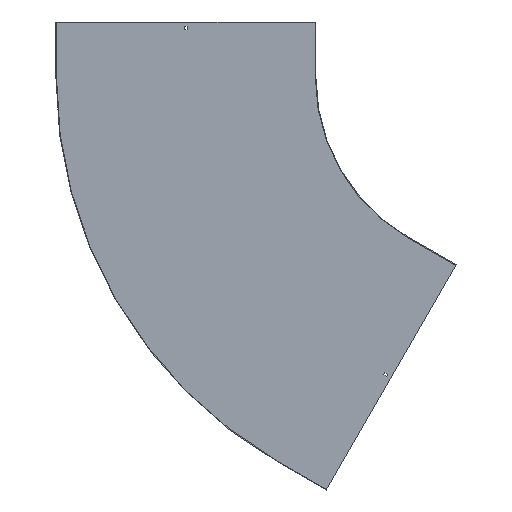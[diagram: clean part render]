
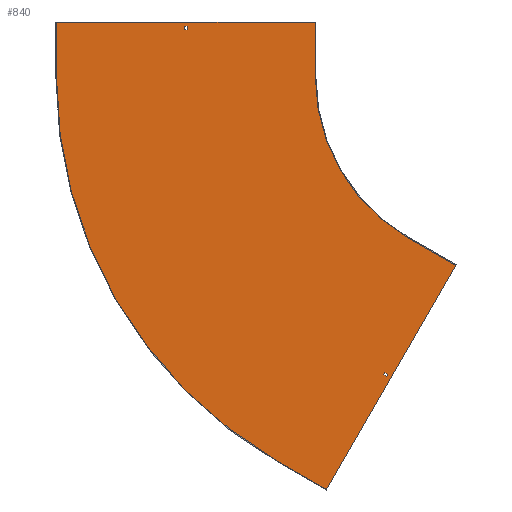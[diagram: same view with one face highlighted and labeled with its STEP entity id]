
A CAD part, front view. The second image highlights one B-rep face of the part: STEP entity #840.
In plain terms, the highlighted planar face has unit normal (0, -1, 0).
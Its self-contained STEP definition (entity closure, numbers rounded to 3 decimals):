
#3 = LINE ( 'NONE', #217, #306 ) ;
#7 = EDGE_CURVE ( 'NONE', #354, #12, #235, .T. ) ;
#10 = DIRECTION ( 'NONE',  ( -0.866, 0., 0.5 ) ) ;
#12 = VERTEX_POINT ( 'NONE', #507 ) ;
#24 = ORIENTED_EDGE ( 'NONE', *, *, #348, .F. ) ;
#27 = EDGE_LOOP ( 'NONE', ( #255, #24, #75, #790 ) ) ;
#32 = VERTEX_POINT ( 'NONE', #436 ) ;
#34 = VERTEX_POINT ( 'NONE', #767 ) ;
#37 = EDGE_CURVE ( 'NONE', #12, #32, #138, .T. ) ;
#51 = DIRECTION ( 'NONE',  ( 0., 0., -1. ) ) ;
#53 = FACE_OUTER_BOUND ( 'NONE', #403, .T. ) ;
#54 = CARTESIAN_POINT ( 'NONE',  ( -250., -1.5, -433.013 ) ) ;
#58 = LINE ( 'NONE', #544, #607 ) ;
#59 = VECTOR ( 'NONE', #10, 1000. ) ;
#64 = EDGE_CURVE ( 'NONE', #300, #316, #58, .T. ) ;
#75 = ORIENTED_EDGE ( 'NONE', *, *, #441, .F. ) ;
#81 = ORIENTED_EDGE ( 'NONE', *, *, #546, .F. ) ;
#83 = EDGE_CURVE ( 'NONE', #725, #551, #332, .T. ) ;
#88 = ORIENTED_EDGE ( 'NONE', *, *, #248, .F. ) ;
#100 = AXIS2_PLACEMENT_3D ( 'NONE', #317, #461, #51 ) ;
#103 = ORIENTED_EDGE ( 'NONE', *, *, #737, .F. ) ;
#104 = CARTESIAN_POINT ( 'NONE',  ( -120.096, -1.5, -508.013 ) ) ;
#118 = VERTEX_POINT ( 'NONE', #413 ) ;
#138 = CIRCLE ( 'NONE', #192, 500. ) ;
#150 = CARTESIAN_POINT ( 'NONE',  ( -311.658, -1.5, -797.807 ) ) ;
#151 = DIRECTION ( 'NONE',  ( 0., 0., 1. ) ) ;
#155 = LINE ( 'NONE', #756, #59 ) ;
#156 = CARTESIAN_POINT ( 'NONE',  ( -1200., -1.5, 150. ) ) ;
#168 = CARTESIAN_POINT ( 'NONE',  ( -500., -1.5, 150. ) ) ;
#169 = CARTESIAN_POINT ( 'NONE',  ( 0., -1.5, 138. ) ) ;
#191 = CARTESIAN_POINT ( 'NONE',  ( -426.625, -1.5, -738.936 ) ) ;
#192 = AXIS2_PLACEMENT_3D ( 'NONE', #515, #841, #720 ) ;
#196 = VERTEX_POINT ( 'NONE', #694 ) ;
#198 = PLANE ( 'NONE',  #100 ) ;
#199 = VERTEX_POINT ( 'NONE', #150 ) ;
#213 = VECTOR ( 'NONE', #358, 1000. ) ;
#217 = CARTESIAN_POINT ( 'NONE',  ( -1200., -1.5, 0. ) ) ;
#225 = ORIENTED_EDGE ( 'NONE', *, *, #527, .T. ) ;
#226 = VERTEX_POINT ( 'NONE', #276 ) ;
#235 = LINE ( 'NONE', #168, #675 ) ;
#238 = VERTEX_POINT ( 'NONE', #156 ) ;
#248 = EDGE_CURVE ( 'NONE', #334, #34, #786, .T. ) ;
#252 = VECTOR ( 'NONE', #462, 1000. ) ;
#255 = ORIENTED_EDGE ( 'NONE', *, *, #514, .F. ) ;
#263 = DIRECTION ( 'NONE',  ( -1., 0., 0. ) ) ;
#275 = DIRECTION ( 'NONE',  ( 0., 0., 1. ) ) ;
#276 = CARTESIAN_POINT ( 'NONE',  ( -303.863, -1.5, -802.307 ) ) ;
#298 = CARTESIAN_POINT ( 'NONE',  ( -470.096, -1.5, -1114.23 ) ) ;
#300 = VERTEX_POINT ( 'NONE', #770 ) ;
#304 = LINE ( 'NONE', #298, #213 ) ;
#306 = VECTOR ( 'NONE', #151, 1000. ) ;
#314 = LINE ( 'NONE', #191, #429 ) ;
#316 = VERTEX_POINT ( 'NONE', #776 ) ;
#317 = CARTESIAN_POINT ( 'NONE',  ( 0., -1.5, 0. ) ) ;
#319 = CARTESIAN_POINT ( 'NONE',  ( -470.096, -1.5, -1114.23 ) ) ;
#324 = DIRECTION ( 'NONE',  ( 0.5, 0., 0.866 ) ) ;
#329 = DIRECTION ( 'NONE',  ( 0., 0., -1. ) ) ;
#332 = LINE ( 'NONE', #598, #707 ) ;
#334 = VERTEX_POINT ( 'NONE', #641 ) ;
#348 = EDGE_CURVE ( 'NONE', #424, #226, #781, .T. ) ;
#354 = VERTEX_POINT ( 'NONE', #679 ) ;
#356 = DIRECTION ( 'NONE',  ( 0., 0., -1. ) ) ;
#358 = DIRECTION ( 'NONE',  ( -0.866, 0., 0.5 ) ) ;
#365 = DIRECTION ( 'NONE',  ( 0., 0., -1. ) ) ;
#367 = EDGE_CURVE ( 'NONE', #199, #118, #803, .T. ) ;
#384 = FACE_BOUND ( 'NONE', #27, .T. ) ;
#386 = CARTESIAN_POINT ( 'NONE',  ( 111.717, -1.5, -64.5 ) ) ;
#403 = EDGE_LOOP ( 'NONE', ( #617, #712, #88, #103, #573, #81, #529, #836 ) ) ;
#413 = CARTESIAN_POINT ( 'NONE',  ( -314.908, -1.5, -803.436 ) ) ;
#424 = VERTEX_POINT ( 'NONE', #735 ) ;
#429 = VECTOR ( 'NONE', #456, 1000. ) ;
#435 = EDGE_CURVE ( 'NONE', #196, #300, #597, .T. ) ;
#436 = CARTESIAN_POINT ( 'NONE',  ( -250., -1.5, -433.013 ) ) ;
#441 = EDGE_CURVE ( 'NONE', #118, #424, #314, .T. ) ;
#447 = AXIS2_PLACEMENT_3D ( 'NONE', #704, #510, #365 ) ;
#456 = DIRECTION ( 'NONE',  ( 0.866, 0., -0.5 ) ) ;
#457 = VECTOR ( 'NONE', #479, 1000. ) ;
#461 = DIRECTION ( 'NONE',  ( 0., -1., 0. ) ) ;
#462 = DIRECTION ( 'NONE',  ( -0.5, 0., -0.866 ) ) ;
#479 = DIRECTION ( 'NONE',  ( 1., 0., 0. ) ) ;
#494 = CARTESIAN_POINT ( 'NONE',  ( -1201.5, -1.5, 150. ) ) ;
#507 = CARTESIAN_POINT ( 'NONE',  ( -500., -1.5, 0. ) ) ;
#510 = DIRECTION ( 'NONE',  ( 0., 1., 0. ) ) ;
#514 = EDGE_CURVE ( 'NONE', #226, #199, #155, .T. ) ;
#515 = CARTESIAN_POINT ( 'NONE',  ( 0., -1.5, 0. ) ) ;
#527 = EDGE_CURVE ( 'NONE', #316, #863, #747, .T. ) ;
#529 = ORIENTED_EDGE ( 'NONE', *, *, #37, .F. ) ;
#539 = VECTOR ( 'NONE', #784, 1000. ) ;
#544 = CARTESIAN_POINT ( 'NONE',  ( 0., -1.5, 129. ) ) ;
#546 = EDGE_CURVE ( 'NONE', #32, #725, #676, .T. ) ;
#551 = VERTEX_POINT ( 'NONE', #319 ) ;
#573 = ORIENTED_EDGE ( 'NONE', *, *, #83, .F. ) ;
#578 = EDGE_CURVE ( 'NONE', #34, #238, #3, .T. ) ;
#587 = CARTESIAN_POINT ( 'NONE',  ( 119.512, -1.5, -69. ) ) ;
#594 = FACE_BOUND ( 'NONE', #755, .T. ) ;
#597 = LINE ( 'NONE', #858, #693 ) ;
#598 = CARTESIAN_POINT ( 'NONE',  ( -119.346, -1.5, -506.714 ) ) ;
#603 = EDGE_CURVE ( 'NONE', #238, #354, #616, .T. ) ;
#606 = CARTESIAN_POINT ( 'NONE',  ( -853.25, -1.5, 138. ) ) ;
#607 = VECTOR ( 'NONE', #263, 1000. ) ;
#616 = LINE ( 'NONE', #494, #457 ) ;
#617 = ORIENTED_EDGE ( 'NONE', *, *, #603, .F. ) ;
#618 = CARTESIAN_POINT ( 'NONE',  ( -853.25, -1.5, 0. ) ) ;
#621 = ORIENTED_EDGE ( 'NONE', *, *, #64, .T. ) ;
#641 = CARTESIAN_POINT ( 'NONE',  ( -600., -1.5, -1039.23 ) ) ;
#663 = VECTOR ( 'NONE', #275, 1000. ) ;
#675 = VECTOR ( 'NONE', #356, 1000. ) ;
#676 = LINE ( 'NONE', #54, #771 ) ;
#679 = CARTESIAN_POINT ( 'NONE',  ( -500., -1.5, 150. ) ) ;
#693 = VECTOR ( 'NONE', #329, 1000. ) ;
#694 = CARTESIAN_POINT ( 'NONE',  ( -846.75, -1.5, 138. ) ) ;
#704 = CARTESIAN_POINT ( 'NONE',  ( 0., -1.5, 0. ) ) ;
#707 = VECTOR ( 'NONE', #804, 1000. ) ;
#708 = VECTOR ( 'NONE', #324, 1000. ) ;
#712 = ORIENTED_EDGE ( 'NONE', *, *, #578, .F. ) ;
#718 = ORIENTED_EDGE ( 'NONE', *, *, #729, .T. ) ;
#720 = DIRECTION ( 'NONE',  ( 0., 0., -1. ) ) ;
#725 = VERTEX_POINT ( 'NONE', #104 ) ;
#726 = DIRECTION ( 'NONE',  ( 0.866, 0., -0.5 ) ) ;
#729 = EDGE_CURVE ( 'NONE', #863, #196, #774, .T. ) ;
#735 = CARTESIAN_POINT ( 'NONE',  ( -307.113, -1.5, -807.936 ) ) ;
#737 = EDGE_CURVE ( 'NONE', #551, #334, #304, .T. ) ;
#747 = LINE ( 'NONE', #618, #663 ) ;
#755 = EDGE_LOOP ( 'NONE', ( #718, #782, #621, #225 ) ) ;
#756 = CARTESIAN_POINT ( 'NONE',  ( -423.375, -1.5, -733.307 ) ) ;
#767 = CARTESIAN_POINT ( 'NONE',  ( -1200., -1.5, 0. ) ) ;
#770 = CARTESIAN_POINT ( 'NONE',  ( -846.75, -1.5, 129. ) ) ;
#771 = VECTOR ( 'NONE', #726, 1000. ) ;
#774 = LINE ( 'NONE', #169, #539 ) ;
#776 = CARTESIAN_POINT ( 'NONE',  ( -853.25, -1.5, 129. ) ) ;
#781 = LINE ( 'NONE', #587, #708 ) ;
#782 = ORIENTED_EDGE ( 'NONE', *, *, #435, .T. ) ;
#784 = DIRECTION ( 'NONE',  ( 1., 0., 0. ) ) ;
#786 = CIRCLE ( 'NONE', #447, 1200. ) ;
#790 = ORIENTED_EDGE ( 'NONE', *, *, #367, .F. ) ;
#803 = LINE ( 'NONE', #386, #252 ) ;
#804 = DIRECTION ( 'NONE',  ( -0.5, 0., -0.866 ) ) ;
#836 = ORIENTED_EDGE ( 'NONE', *, *, #7, .F. ) ;
#840 = ADVANCED_FACE ( 'NONE', ( #384, #53, #594 ), #198, .T. ) ;
#841 = DIRECTION ( 'NONE',  ( 0., -1., 0. ) ) ;
#858 = CARTESIAN_POINT ( 'NONE',  ( -846.75, -1.5, 0. ) ) ;
#863 = VERTEX_POINT ( 'NONE', #606 ) ;
